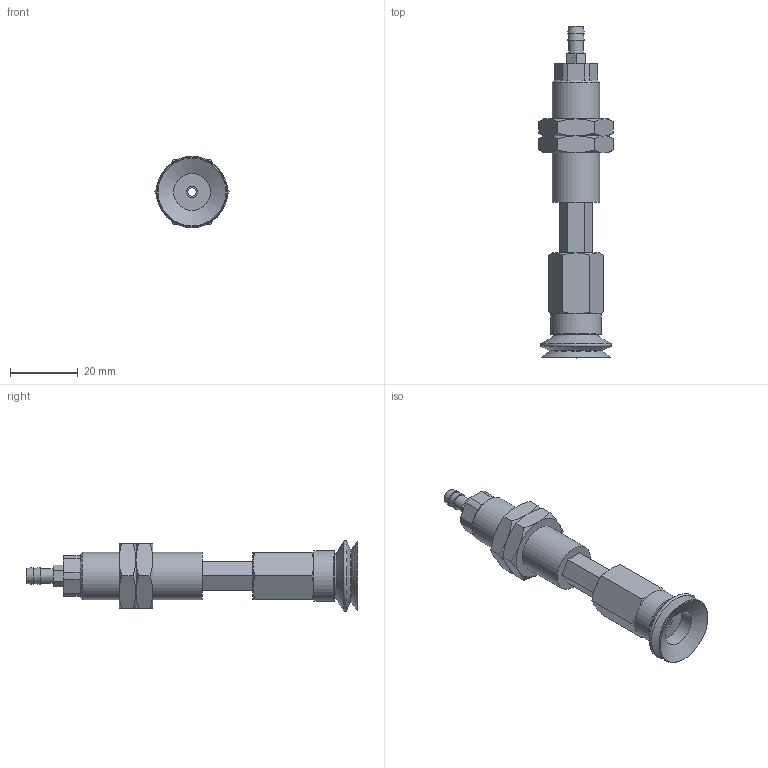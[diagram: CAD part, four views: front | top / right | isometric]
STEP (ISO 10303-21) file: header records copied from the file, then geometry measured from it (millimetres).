
FILE_DESCRIPTION(('STEP AP203'),'1');
FILE_NAME('-T.stp','2025-08-27T06:57:34',(' '),(' '),'Spatial InterOp 3D',' ',' ');
FILE_SCHEMA(('CONFIG_CONTROL_DESIGN'));
Length unit declared in the file: millimetre
Products named in the file (8): BNABPJTH-20-15-※-T; ADAPTER; NAPBTH-20-15-MBODY; Adapter-20-NAPJ; NAPJH-20-15-NUT; NAPJTH-20-15-FBODY; BPJG-20-※; T
Assembly tree (8 placements, depth 2):
  BNABPJTH-20-15-※-T
    ADAPTER
    NAPBTH-20-15-MBODY
    Adapter-20-NAPJ
    NAPJH-20-15-NUT  x2
    NAPJTH-20-15-FBODY
    BPJG-20-※
    T
Bounding box: 21.94 x 98 x 21 mm (x, y, z)
Volume: 13384.4 mm3; surface area: 10994.3 mm2
Topology: 8 solids, 8 shells, 155 faces, 337 edges, 208 vertices
Faces by surface type: plane 74, cone 52, cylinder 22, torus 7
Full cylindrical faces by diameter (mm): 2.5 x1, 3 x3, 4.134 x2, 4.3 x1, 4.6 x1, 5 x2, 10.8 x1, 11 x1, 13.188 x2, 14 x1, 15 x1
Entity records: 4006 total; most frequent: CARTESIAN_POINT 895, DIRECTION 568, ORIENTED_EDGE 490, EDGE_CURVE 245, AXIS2_PLACEMENT_3D 230, EDGE_LOOP 192, VERTEX_POINT 173, FACE_OUTER_BOUND 154
